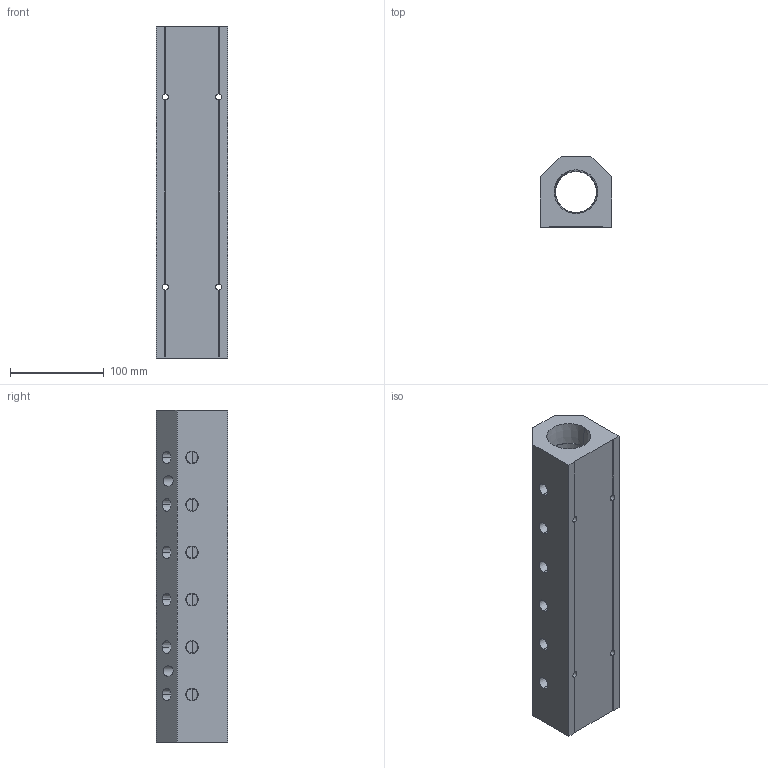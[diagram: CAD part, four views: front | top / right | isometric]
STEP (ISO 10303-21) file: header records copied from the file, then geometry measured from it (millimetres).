
FILE_DESCRIPTION (( 'STEP AP214' ), '1' );
FILE_NAME ('ALM6AB-N4N24-355R.step', '2022-02-07T07:39:44', ( '' ), ( '' ), 'SwSTEP 2.0', 'SolidWorks 2020', '' );
FILE_SCHEMA (( 'AUTOMOTIVE_DESIGN' ));
Length unit declared in the file: millimetre
Products named in the file (1): ALM6AB-N4N24-355R
Bounding box: 76.2 x 76.2 x 355 mm (x, y, z)
Volume: 1294308.9 mm3; surface area: 166135.4 mm2
Topology: 1 solids, 1 shells, 332 faces, 889 edges, 586 vertices
Faces by surface type: plane 223, bspline 63, cone 28, cylinder 18
Entity records: 18322 total; most frequent: CARTESIAN_POINT 7279, ORIENTED_EDGE 1778, DIRECTION 1323, EDGE_CURVE 889, VECTOR 663, LINE 663, VERTEX_POINT 586, EDGE_LOOP 393
